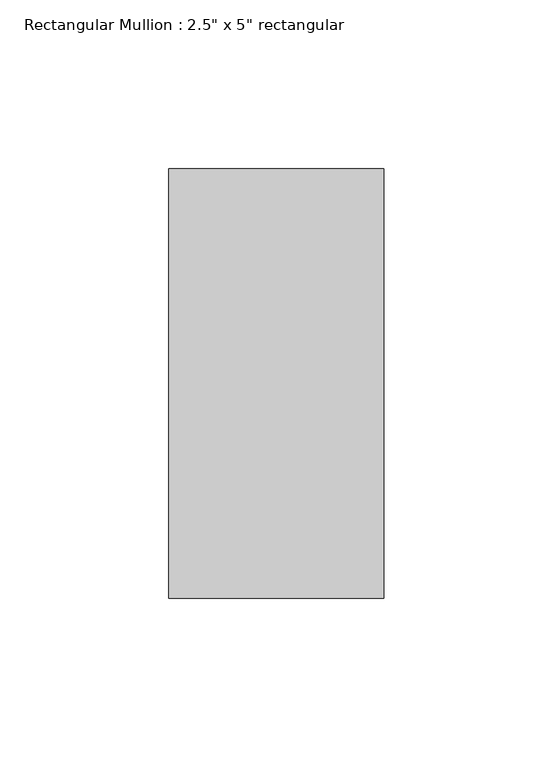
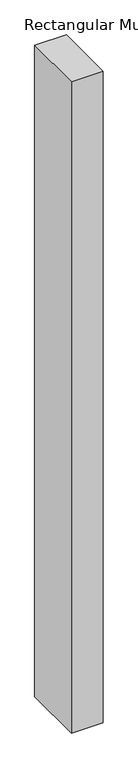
"""IFC4 building model written with IfcOpenShell, lengths in millimetres: member geometry."""

from ifc_helpers import new_model, si_unit, frame, origin, place, context, project, spatial, polyline, outline, extrude, source, transform, mapped, element, save


def member_13474e0d(model_context):
    return source(origin(), model_context, "Body", "SweptSolid", [
        extrude(outline(polyline([(31.75, 63.5), (31.75, -63.5), (-31.75, -63.5), (-31.75, 63.5), (31.75, 63.5)])), frame((0.0, 0.0, -1377.2444444), z_axis=(0.0, 0.0, 1.0), x_axis=(1.0, 0.0, 0.0)), (0.0, 0.0, 1.0), 1377.2444444),
    ])


if __name__ == "__main__":
    model = new_model("IFC4")
    model_context = context("Model", 3, world=origin())
    ifc_project = project(units=[si_unit("LENGTHUNIT", "METRE", prefix="MILLI")], contexts=[model_context])
    site = spatial("IfcSite", under=ifc_project)
    building = spatial("IfcBuilding", under=site)
    placement = place(None, origin())
    member_shape = member_13474e0d(model_context)
    element("IfcMember", 1, ObjectType="Rectangular Mullion : 2.5\" x 5\" rectangular", at=placement, inside=building, context=model_context, shape_type="MappedRepresentation", body=[
        mapped(member_shape, transform((0.0, 0.0, 0.0), x_axis=(1.0, 0.0, 0.0), y_axis=(0.0, 1.0, 0.0), z_axis=(0.0, 0.0, 1.0))),
    ])
    save(model, "model.ifc")
